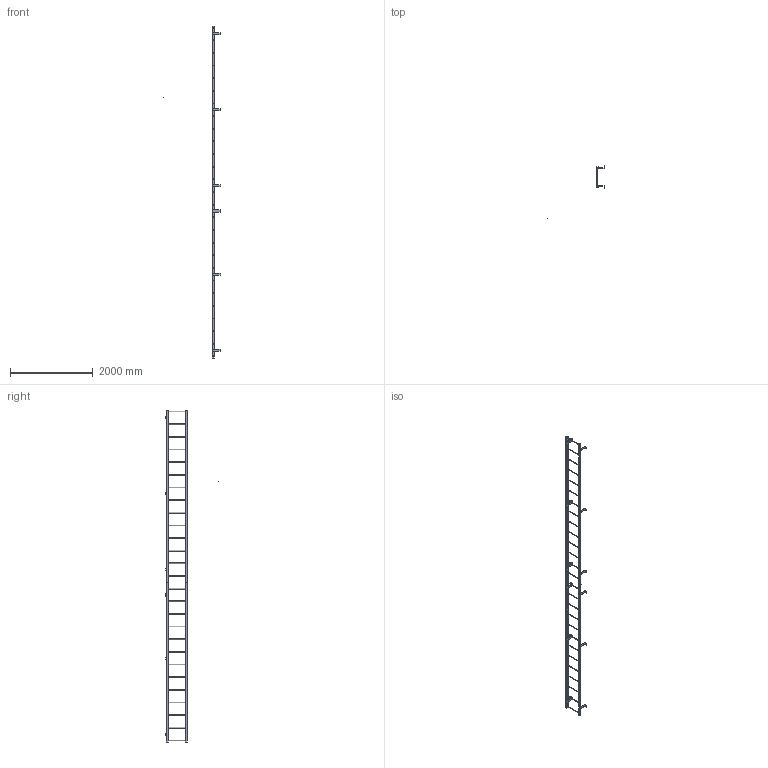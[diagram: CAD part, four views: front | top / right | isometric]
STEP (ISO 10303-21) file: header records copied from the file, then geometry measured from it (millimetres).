
FILE_DESCRIPTION(/* description */ (''),/* implementation_level */ '2;1');
FILE_NAME(/* name */ 'P:\MIKEL & KAREN\D0570341 F27S SIMPLIFIED PART.stp',/* time_stamp */ '2018-07-03T08:30:11-04:00',/* author */ ('stephanie'),/* organization */ (''),/* preprocessor_version */ 'ST-DEVELOPER v16.1',/* originating_system */ 'Autodesk Inventor 2016',/* authorisation */ '');
FILE_SCHEMA (('AUTOMOTIVE_DESIGN { 1 0 10303 214 3 1 1 }'));
Length unit declared in the file: centimetre
Products named in the file (1): D0570341 F27S SIMPLIFIED PART
Bounding box: 1377 x 1262.07 x 8001 mm (x, y, z)
Volume: 13803375.1 mm3; surface area: 4143322.3 mm2
Topology: 30 solids, 30 shells, 366 faces, 962 edges, 648 vertices
Faces by surface type: plane 210, cylinder 156
Full cylindrical faces by diameter (mm): 0.254 x1, 14.287 x14, 19.05 x27, 22.225 x54
Entity records: 10970 total; most frequent: DIRECTION 1868, CARTESIAN_POINT 1745, ORIENTED_EDGE 1596, EDGE_CURVE 798, AXIS2_PLACEMENT_3D 703, EDGE_LOOP 598, VERTEX_POINT 580, LINE 462
